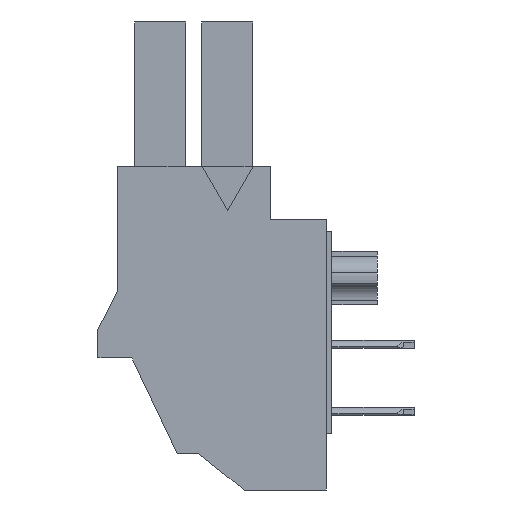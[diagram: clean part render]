
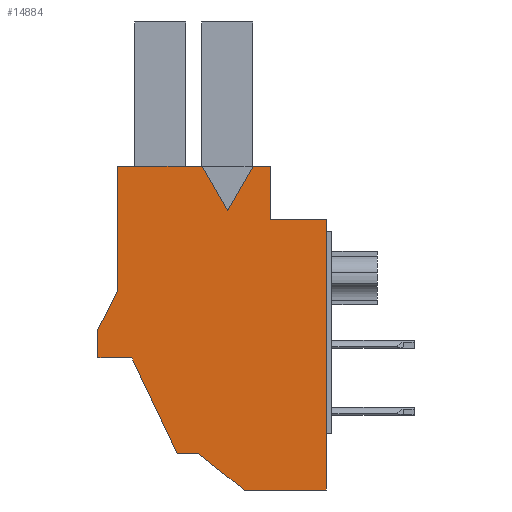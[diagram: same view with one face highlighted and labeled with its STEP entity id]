
A CAD part, left-side view. The second image highlights one B-rep face of the part: STEP entity #14884.
In plain terms, the highlighted planar face has unit normal (-1, 0, 0).
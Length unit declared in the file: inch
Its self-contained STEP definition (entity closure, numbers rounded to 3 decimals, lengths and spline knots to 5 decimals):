
#1=DIRECTION('',(0.,-0.5,-0.866));
#2=VECTOR('',#1,0.09);
#3=CARTESIAN_POINT('',(-0.6045,0.018,0.));
#4=LINE('',#3,#2);
#5=DIRECTION('',(0.,-0.5,0.866));
#6=VECTOR('',#5,0.09);
#7=CARTESIAN_POINT('',(-0.6045,-0.027,-0.07794));
#8=LINE('',#7,#6);
#9=DIRECTION('',(0.,-1.,0.));
#10=VECTOR('',#9,0.031);
#11=CARTESIAN_POINT('',(-0.6045,-0.072,0.));
#12=LINE('',#11,#10);
#13=DIRECTION('',(0.,0.,-1.));
#14=VECTOR('',#13,0.094);
#15=CARTESIAN_POINT('',(-0.6045,-0.103,0.));
#16=LINE('',#15,#14);
#17=DIRECTION('',(0.,-1.,0.));
#18=VECTOR('',#17,0.098);
#19=CARTESIAN_POINT('',(-0.6045,-0.103,-0.094));
#20=LINE('',#19,#18);
#21=DIRECTION('',(0.,0.,-1.));
#22=VECTOR('',#21,0.477);
#23=CARTESIAN_POINT('',(-0.6045,-0.201,-0.094));
#24=LINE('',#23,#22);
#25=DIRECTION('',(0.,1.,0.));
#26=VECTOR('',#25,0.145);
#27=CARTESIAN_POINT('',(-0.6045,-0.201,-0.571));
#28=LINE('',#27,#26);
#29=DIRECTION('',(0.,0.781,0.625));
#30=VECTOR('',#29,0.10245);
#31=CARTESIAN_POINT('',(-0.6045,-0.056,-0.571));
#32=LINE('',#31,#30);
#33=DIRECTION('',(0.,1.,0.));
#34=VECTOR('',#33,0.038);
#35=CARTESIAN_POINT('',(-0.6045,0.024,-0.507));
#36=LINE('',#35,#34);
#37=DIRECTION('',(0.,0.428,0.904));
#38=VECTOR('',#37,0.18698);
#39=CARTESIAN_POINT('',(-0.6045,0.062,-0.507));
#40=LINE('',#39,#38);
#41=DIRECTION('',(0.,1.,0.));
#42=VECTOR('',#41,0.06);
#43=CARTESIAN_POINT('',(-0.6045,0.142,-0.338));
#44=LINE('',#43,#42);
#45=DIRECTION('',(0.,0.,1.));
#46=VECTOR('',#45,0.05);
#47=CARTESIAN_POINT('',(-0.6045,0.202,-0.338));
#48=LINE('',#47,#46);
#49=DIRECTION('',(0.,-0.452,0.892));
#50=VECTOR('',#49,0.07737);
#51=CARTESIAN_POINT('',(-0.6045,0.202,-0.288));
#52=LINE('',#51,#50);
#53=DIRECTION('',(0.,0.,1.));
#54=VECTOR('',#53,0.219);
#55=CARTESIAN_POINT('',(-0.6045,0.167,-0.219));
#56=LINE('',#55,#54);
#57=DIRECTION('',(0.,-1.,0.));
#58=VECTOR('',#57,0.149);
#59=CARTESIAN_POINT('',(-0.6045,0.167,0.));
#60=LINE('',#59,#58);
#11339=CARTESIAN_POINT('',(-0.6045,-0.103,0.));
#11340=CARTESIAN_POINT('',(-0.6045,-0.103,-0.094));
#11341=VERTEX_POINT('',#11339);
#11342=VERTEX_POINT('',#11340);
#11343=CARTESIAN_POINT('',(-0.6045,-0.201,-0.094));
#11344=VERTEX_POINT('',#11343);
#11345=CARTESIAN_POINT('',(-0.6045,-0.201,-0.571));
#11346=VERTEX_POINT('',#11345);
#11347=CARTESIAN_POINT('',(-0.6045,-0.056,-0.571));
#11348=VERTEX_POINT('',#11347);
#11349=CARTESIAN_POINT('',(-0.6045,0.024,-0.507));
#11350=VERTEX_POINT('',#11349);
#11351=CARTESIAN_POINT('',(-0.6045,0.062,-0.507));
#11352=VERTEX_POINT('',#11351);
#11353=CARTESIAN_POINT('',(-0.6045,0.142,-0.338));
#11354=VERTEX_POINT('',#11353);
#11355=CARTESIAN_POINT('',(-0.6045,0.202,-0.338));
#11356=VERTEX_POINT('',#11355);
#11357=CARTESIAN_POINT('',(-0.6045,0.202,-0.288));
#11358=VERTEX_POINT('',#11357);
#11359=CARTESIAN_POINT('',(-0.6045,0.167,-0.219));
#11360=VERTEX_POINT('',#11359);
#11361=CARTESIAN_POINT('',(-0.6045,0.167,0.));
#11362=VERTEX_POINT('',#11361);
#11515=CARTESIAN_POINT('',(-0.6045,0.018,0.));
#11516=CARTESIAN_POINT('',(-0.6045,-0.027,-0.07794));
#11517=VERTEX_POINT('',#11515);
#11518=VERTEX_POINT('',#11516);
#11519=CARTESIAN_POINT('',(-0.6045,-0.072,0.));
#11520=VERTEX_POINT('',#11519);
#14847=CARTESIAN_POINT('',(-0.6045,0.,0.));
#14848=DIRECTION('',(1.,0.,0.));
#14849=DIRECTION('',(0.,0.,-1.));
#14850=AXIS2_PLACEMENT_3D('',#14847,#14848,#14849);
#14851=PLANE('',#14850);
#14853=ORIENTED_EDGE('',*,*,#14852,.T.);
#14855=ORIENTED_EDGE('',*,*,#14854,.T.);
#14857=ORIENTED_EDGE('',*,*,#14856,.T.);
#14859=ORIENTED_EDGE('',*,*,#14858,.T.);
#14861=ORIENTED_EDGE('',*,*,#14860,.T.);
#14863=ORIENTED_EDGE('',*,*,#14862,.T.);
#14865=ORIENTED_EDGE('',*,*,#14864,.T.);
#14867=ORIENTED_EDGE('',*,*,#14866,.T.);
#14869=ORIENTED_EDGE('',*,*,#14868,.T.);
#14871=ORIENTED_EDGE('',*,*,#14870,.T.);
#14873=ORIENTED_EDGE('',*,*,#14872,.T.);
#14875=ORIENTED_EDGE('',*,*,#14874,.T.);
#14877=ORIENTED_EDGE('',*,*,#14876,.T.);
#14879=ORIENTED_EDGE('',*,*,#14878,.T.);
#14881=ORIENTED_EDGE('',*,*,#14880,.T.);
#14882=EDGE_LOOP('',(#14853,#14855,#14857,#14859,#14861,#14863,#14865,#14867,
#14869,#14871,#14873,#14875,#14877,#14879,#14881));
#14883=FACE_OUTER_BOUND('',#14882,.F.);
#14884=ADVANCED_FACE('',(#14883),#14851,.F.);
#14852=EDGE_CURVE('',#11517,#11518,#4,.T.);
#14854=EDGE_CURVE('',#11518,#11520,#8,.T.);
#14856=EDGE_CURVE('',#11520,#11341,#12,.T.);
#14858=EDGE_CURVE('',#11341,#11342,#16,.T.);
#14860=EDGE_CURVE('',#11342,#11344,#20,.T.);
#14862=EDGE_CURVE('',#11344,#11346,#24,.T.);
#14864=EDGE_CURVE('',#11346,#11348,#28,.T.);
#14866=EDGE_CURVE('',#11348,#11350,#32,.T.);
#14868=EDGE_CURVE('',#11350,#11352,#36,.T.);
#14870=EDGE_CURVE('',#11352,#11354,#40,.T.);
#14872=EDGE_CURVE('',#11354,#11356,#44,.T.);
#14874=EDGE_CURVE('',#11356,#11358,#48,.T.);
#14876=EDGE_CURVE('',#11358,#11360,#52,.T.);
#14878=EDGE_CURVE('',#11360,#11362,#56,.T.);
#14880=EDGE_CURVE('',#11362,#11517,#60,.T.);
